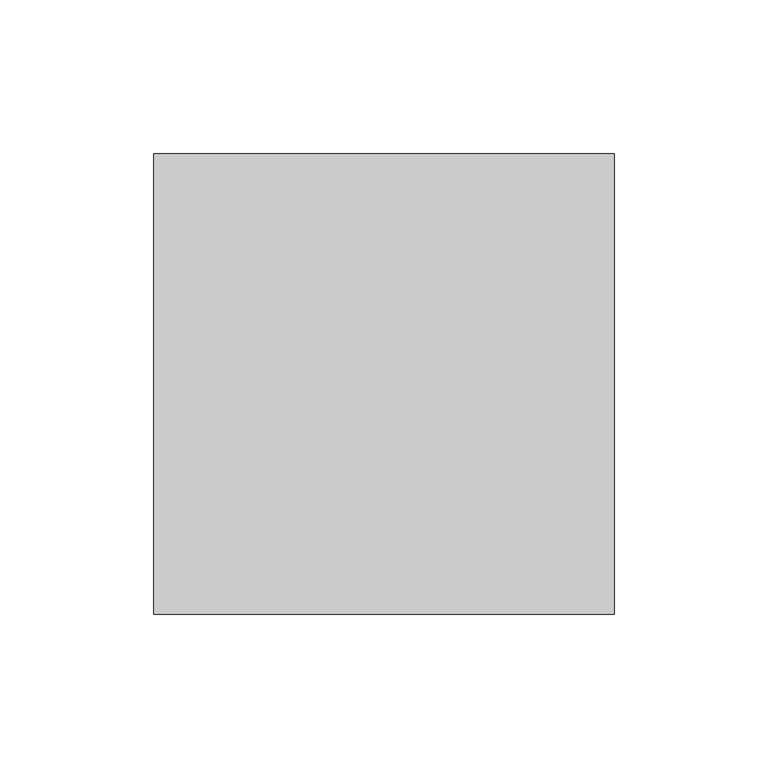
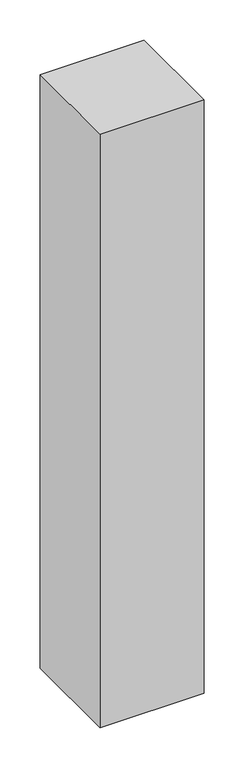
"""IFC4 building model written with IfcOpenShell, lengths in millimetres: proxy geometry, Брус : 150х150."""

from ifc_helpers import new_model, si_unit, origin, origin_with_axes, place, context, project, spatial, polyline, outline, extrude, source, transform, mapped, element, save


def generic_models_94b8cab4(model_context):
    return source(origin(), model_context, "Body", "SweptSolid", [
        extrude(outline(polyline([(150.0, 0.0), (0.0, 0.0), (0.0, 150.0), (150.0, 150.0), (150.0, 0.0)])), origin_with_axes(), (0.0, 0.0, 1.0), 905.0),
    ])


if __name__ == "__main__":
    model = new_model("IFC4")
    model_context = context("Model", 3, world=origin())
    ifc_project = project(units=[si_unit("LENGTHUNIT", "METRE", prefix="MILLI")], contexts=[model_context])
    site = spatial("IfcSite", under=ifc_project)
    building = spatial("IfcBuilding", under=site)
    placement = place(None, origin())
    generic_models_shape = generic_models_94b8cab4(model_context)
    element("IfcBuildingElementProxy", 1, Name="Брус : 150х150", ObjectType="Брус : 150х150", at=placement, inside=building, context=model_context, shape_type="MappedRepresentation", body=[
        mapped(generic_models_shape, transform((0.0, 0.0, 0.0), x_axis=(1.0, 0.0, 0.0), y_axis=(0.0, 1.0, 0.0), z_axis=(0.0, 0.0, 1.0))),
    ])
    save(model, "model.ifc")
